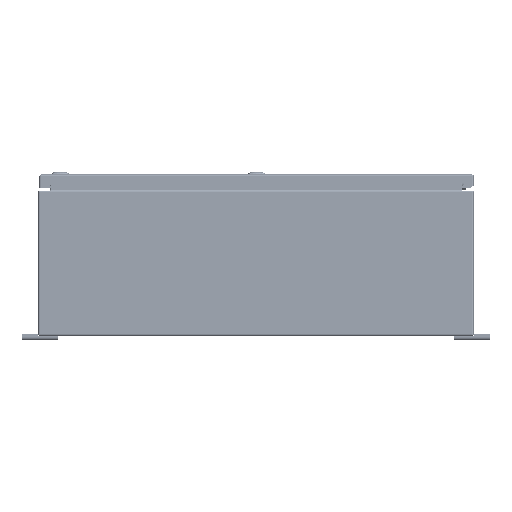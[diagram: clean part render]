
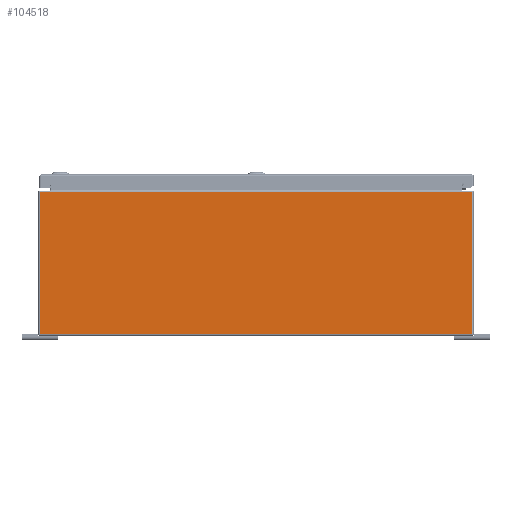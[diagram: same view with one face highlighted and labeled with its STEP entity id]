
A CAD part, left-side view. The second image highlights one B-rep face of the part: STEP entity #104518.
In plain terms, the highlighted planar face has unit normal (-1, 0, 0).
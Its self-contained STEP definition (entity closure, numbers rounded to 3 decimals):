
#6500=PLANE('',#111877);
#9093=LINE('',#147644,#17290);
#9094=LINE('',#147648,#17291);
#9095=LINE('',#147650,#17292);
#9096=LINE('',#147652,#17293);
#9097=LINE('',#147654,#17294);
#9098=LINE('',#147655,#17295);
#17290=VECTOR('',#121169,0.394);
#17291=VECTOR('',#121174,0.394);
#17292=VECTOR('',#121175,0.394);
#17293=VECTOR('',#121176,0.394);
#17294=VECTOR('',#121177,0.394);
#17295=VECTOR('',#121178,0.394);
#27175=FACE_OUTER_BOUND('',#33317,.T.);
#33317=EDGE_LOOP('',(#70910,#70911,#70912,#70913,#70914,#70915));
#44118=VERTEX_POINT('',#147626);
#44125=VERTEX_POINT('',#147643);
#44126=VERTEX_POINT('',#147647);
#44127=VERTEX_POINT('',#147649);
#44128=VERTEX_POINT('',#147651);
#44129=VERTEX_POINT('',#147653);
#54592=EDGE_CURVE('',#44118,#44125,#9093,.T.);
#54594=EDGE_CURVE('',#44126,#44118,#9094,.T.);
#54595=EDGE_CURVE('',#44126,#44127,#9095,.T.);
#54596=EDGE_CURVE('',#44128,#44127,#9096,.T.);
#54597=EDGE_CURVE('',#44129,#44128,#9097,.T.);
#54598=EDGE_CURVE('',#44129,#44125,#9098,.T.);
#70910=ORIENTED_EDGE('',*,*,#54594,.F.);
#70911=ORIENTED_EDGE('',*,*,#54595,.T.);
#70912=ORIENTED_EDGE('',*,*,#54596,.F.);
#70913=ORIENTED_EDGE('',*,*,#54597,.F.);
#70914=ORIENTED_EDGE('',*,*,#54598,.T.);
#70915=ORIENTED_EDGE('',*,*,#54592,.F.);
#104518=ADVANCED_FACE('',(#27175),#6500,.F.);
#111877=AXIS2_PLACEMENT_3D('',#147646,#121172,#121173);
#121169=DIRECTION('',(0.,0.,-1.));
#121172=DIRECTION('center_axis',(1.,0.,0.));
#121173=DIRECTION('ref_axis',(0.,0.,-1.));
#121174=DIRECTION('',(0.,-1.,0.));
#121175=DIRECTION('',(0.,1.,0.));
#121176=DIRECTION('',(0.,-1.,0.));
#121177=DIRECTION('',(0.,0.,1.));
#121178=DIRECTION('',(0.,-1.,0.));
#147626=CARTESIAN_POINT('',(-36.,-14.901,9.901));
#147643=CARTESIAN_POINT('',(-36.,-14.901,0.099));
#147644=CARTESIAN_POINT('',(-36.,-14.901,5.));
#147646=CARTESIAN_POINT('Origin',(-36.,0.,5.));
#147647=CARTESIAN_POINT('',(-36.,-14.126,9.901));
#147648=CARTESIAN_POINT('',(-36.,-7.475,9.901));
#147649=CARTESIAN_POINT('',(-36.,14.126,9.901));
#147650=CARTESIAN_POINT('',(-36.,7.455,9.901));
#147651=CARTESIAN_POINT('',(-36.,14.901,9.901));
#147652=CARTESIAN_POINT('',(-36.,-7.475,9.901));
#147653=CARTESIAN_POINT('',(-36.,14.901,0.099));
#147654=CARTESIAN_POINT('',(-36.,14.901,5.));
#147655=CARTESIAN_POINT('',(-36.,7.5,0.099));
